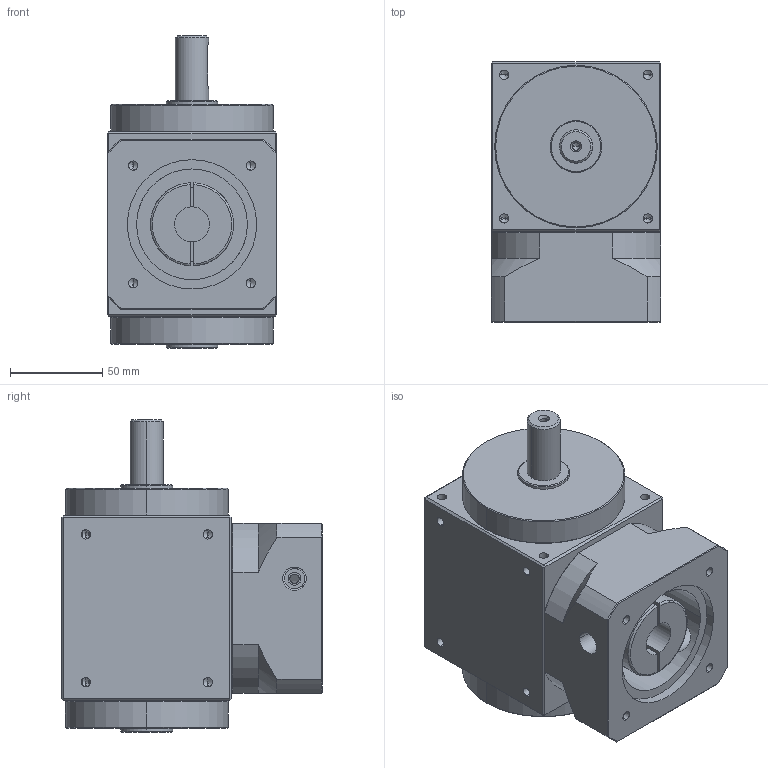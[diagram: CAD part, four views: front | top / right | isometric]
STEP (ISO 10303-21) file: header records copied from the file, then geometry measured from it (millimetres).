
FILE_DESCRIPTION (( 'STEP AP203' ), '1' );
FILE_NAME ('KHT90-S1-L0£r70PCD£r90M6.STEP', '2014-03-26T08:48:11', ( 'KELLY' ), ( '' ), 'SwSTEP 2.0', 'SolidWorks 2012', '' );
FILE_SCHEMA (( 'CONFIG_CONTROL_DESIGN' ));
Length unit declared in the file: millimetre
Products named in the file (1): KHT90-S1-L0｣r70PCD｣r90M6
Bounding box: 92 x 141 x 169 mm (x, y, z)
Volume: 1336007.1 mm3; surface area: 131586.4 mm2
Topology: 4 solids, 4 shells, 284 faces, 657 edges, 356 vertices
Faces by surface type: cylinder 129, cone 86, plane 65, torus 4
Entity records: 8495 total; most frequent: CARTESIAN_POINT 2310, DIRECTION 1320, ORIENTED_EDGE 1214, EDGE_CURVE 607, AXIS2_PLACEMENT_3D 524, VERTEX_POINT 356, EDGE_LOOP 329, FACE_OUTER_BOUND 284
